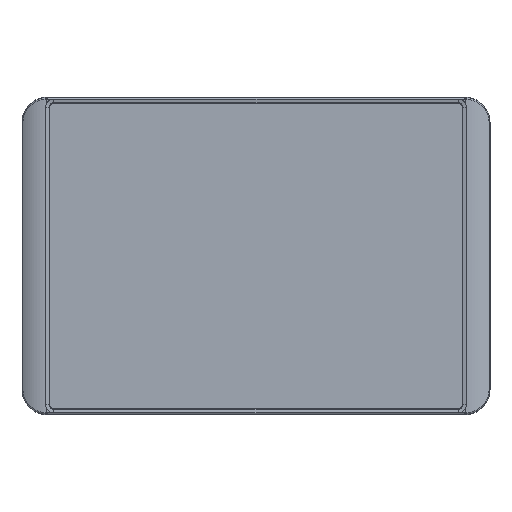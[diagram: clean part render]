
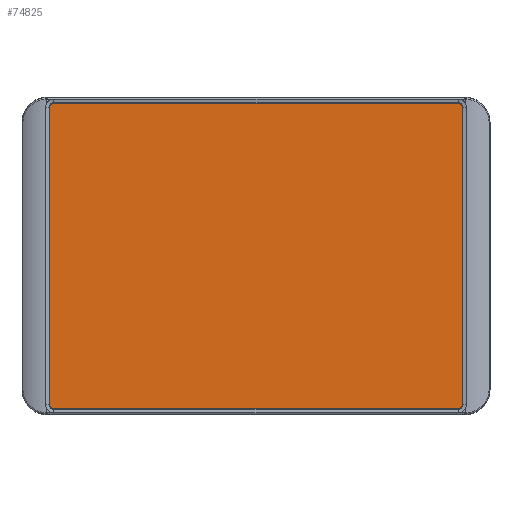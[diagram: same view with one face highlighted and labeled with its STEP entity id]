
A CAD part, top view. The second image highlights one B-rep face of the part: STEP entity #74825.
In plain terms, the highlighted planar face has unit normal (0, 0, 1).
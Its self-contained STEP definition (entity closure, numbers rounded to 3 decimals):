
#245 = CARTESIAN_POINT ( 'NONE',  ( 96.9, 73.075, 6.7 ) ) ;
#2170 = DIRECTION ( 'NONE',  ( 1., 0., 0. ) ) ;
#2680 = EDGE_CURVE ( 'NONE', #31585, #22433, #42540, .T. ) ;
#3657 = ORIENTED_EDGE ( 'NONE', *, *, #34353, .T. ) ;
#4297 = VERTEX_POINT ( 'NONE', #73900 ) ;
#4824 = DIRECTION ( 'NONE',  ( 1., 0., 0. ) ) ;
#5685 = ORIENTED_EDGE ( 'NONE', *, *, #27817, .T. ) ;
#5742 = CARTESIAN_POINT ( 'NONE',  ( -96.9, 71.225, 6.7 ) ) ;
#7768 = CARTESIAN_POINT ( 'NONE',  ( -98.75, 73.075, 6.7 ) ) ;
#9689 = DIRECTION ( 'NONE',  ( 0., 0., 1. ) ) ;
#10639 = DIRECTION ( 'NONE',  ( 0., -1., 0. ) ) ;
#10736 = ORIENTED_EDGE ( 'NONE', *, *, #89772, .T. ) ;
#12933 = DIRECTION ( 'NONE',  ( 1., 0., 0. ) ) ;
#13934 = CARTESIAN_POINT ( 'NONE',  ( 96.9, -73.075, 6.7 ) ) ;
#15193 = CIRCLE ( 'NONE', #65111, 1.85 ) ;
#16535 = CIRCLE ( 'NONE', #85955, 1.85 ) ;
#17126 = DIRECTION ( 'NONE',  ( 0., 0., 1. ) ) ;
#19520 = AXIS2_PLACEMENT_3D ( 'NONE', #65283, #22275, #72423 ) ;
#20199 = LINE ( 'NONE', #37468, #37038 ) ;
#22146 = VECTOR ( 'NONE', #4824, 1000. ) ;
#22275 = DIRECTION ( 'NONE',  ( 0., 0., 1. ) ) ;
#22433 = VERTEX_POINT ( 'NONE', #54594 ) ;
#27817 = EDGE_CURVE ( 'NONE', #73964, #59746, #39004, .T. ) ;
#31585 = VERTEX_POINT ( 'NONE', #71676 ) ;
#34353 = EDGE_CURVE ( 'NONE', #59746, #77393, #16535, .T. ) ;
#37038 = VECTOR ( 'NONE', #44683, 1000. ) ;
#37468 = CARTESIAN_POINT ( 'NONE',  ( 98.75, 73.075, 6.7 ) ) ;
#37470 = EDGE_CURVE ( 'NONE', #72119, #43428, #81067, .T. ) ;
#37955 = CARTESIAN_POINT ( 'NONE',  ( -98.75, -73.075, 6.7 ) ) ;
#39004 = LINE ( 'NONE', #47861, #22146 ) ;
#42504 = DIRECTION ( 'NONE',  ( -1., 0., 0. ) ) ;
#42540 = LINE ( 'NONE', #7768, #73847 ) ;
#43094 = VECTOR ( 'NONE', #42504, 1000. ) ;
#43428 = VERTEX_POINT ( 'NONE', #90771 ) ;
#43757 = ORIENTED_EDGE ( 'NONE', *, *, #37470, .T. ) ;
#44683 = DIRECTION ( 'NONE',  ( 0., 1., 0. ) ) ;
#45203 = DIRECTION ( 'NONE',  ( 0., 0., 1. ) ) ;
#47861 = CARTESIAN_POINT ( 'NONE',  ( -98.75, -73.075, 6.7 ) ) ;
#51260 = ORIENTED_EDGE ( 'NONE', *, *, #86951, .T. ) ;
#52682 = CARTESIAN_POINT ( 'NONE',  ( -96.9, -71.225, 6.7 ) ) ;
#54594 = CARTESIAN_POINT ( 'NONE',  ( -98.75, -71.225, 6.7 ) ) ;
#55944 = DIRECTION ( 'NONE',  ( 0., 0., 1. ) ) ;
#58096 = ORIENTED_EDGE ( 'NONE', *, *, #2680, .T. ) ;
#58403 = EDGE_CURVE ( 'NONE', #43428, #31585, #15193, .T. ) ;
#59746 = VERTEX_POINT ( 'NONE', #13934 ) ;
#59886 = DIRECTION ( 'NONE',  ( 1., 0., 0. ) ) ;
#60095 = EDGE_LOOP ( 'NONE', ( #5685, #3657, #51260, #10736, #43757, #72334, #58096, #62988 ) ) ;
#60135 = CARTESIAN_POINT ( 'NONE',  ( 96.9, -71.225, 6.7 ) ) ;
#62988 = ORIENTED_EDGE ( 'NONE', *, *, #80225, .T. ) ;
#63800 = CARTESIAN_POINT ( 'NONE',  ( -98.75, 73.075, 6.7 ) ) ;
#65111 = AXIS2_PLACEMENT_3D ( 'NONE', #5742, #55944, #12933 ) ;
#65283 = CARTESIAN_POINT ( 'NONE',  ( 96.9, 71.225, 6.7 ) ) ;
#66840 = CARTESIAN_POINT ( 'NONE',  ( -96.9, -73.075, 6.7 ) ) ;
#67315 = DIRECTION ( 'NONE',  ( 1., 0., 0. ) ) ;
#71676 = CARTESIAN_POINT ( 'NONE',  ( -98.75, 71.225, 6.7 ) ) ;
#72119 = VERTEX_POINT ( 'NONE', #245 ) ;
#72334 = ORIENTED_EDGE ( 'NONE', *, *, #58403, .T. ) ;
#72423 = DIRECTION ( 'NONE',  ( 1., 0., 0. ) ) ;
#73847 = VECTOR ( 'NONE', #10639, 1000. ) ;
#73900 = CARTESIAN_POINT ( 'NONE',  ( 98.75, 71.225, 6.7 ) ) ;
#73964 = VERTEX_POINT ( 'NONE', #66840 ) ;
#74825 = ADVANCED_FACE ( 'NONE', ( #86931 ), #80794, .T. ) ;
#75865 = CIRCLE ( 'NONE', #19520, 1.85 ) ;
#77393 = VERTEX_POINT ( 'NONE', #81397 ) ;
#78059 = AXIS2_PLACEMENT_3D ( 'NONE', #37955, #45203, #2170 ) ;
#80225 = EDGE_CURVE ( 'NONE', #22433, #73964, #85068, .T. ) ;
#80790 = AXIS2_PLACEMENT_3D ( 'NONE', #52682, #9689, #59886 ) ;
#80794 = PLANE ( 'NONE',  #78059 ) ;
#81067 = LINE ( 'NONE', #63800, #43094 ) ;
#81397 = CARTESIAN_POINT ( 'NONE',  ( 98.75, -71.225, 6.7 ) ) ;
#85068 = CIRCLE ( 'NONE', #80790, 1.85 ) ;
#85955 = AXIS2_PLACEMENT_3D ( 'NONE', #60135, #17126, #67315 ) ;
#86931 = FACE_OUTER_BOUND ( 'NONE', #60095, .T. ) ;
#86951 = EDGE_CURVE ( 'NONE', #77393, #4297, #20199, .T. ) ;
#89772 = EDGE_CURVE ( 'NONE', #4297, #72119, #75865, .T. ) ;
#90771 = CARTESIAN_POINT ( 'NONE',  ( -96.9, 73.075, 6.7 ) ) ;
